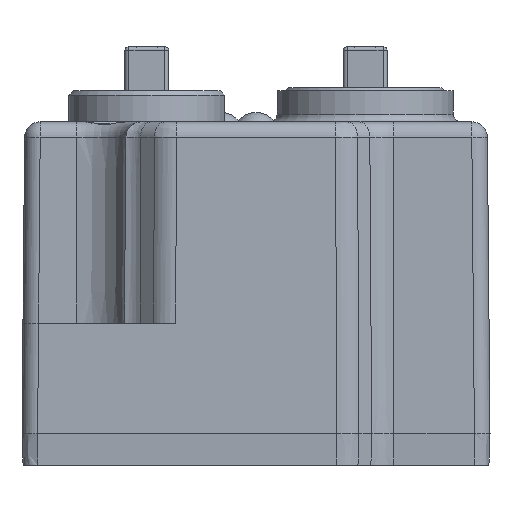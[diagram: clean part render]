
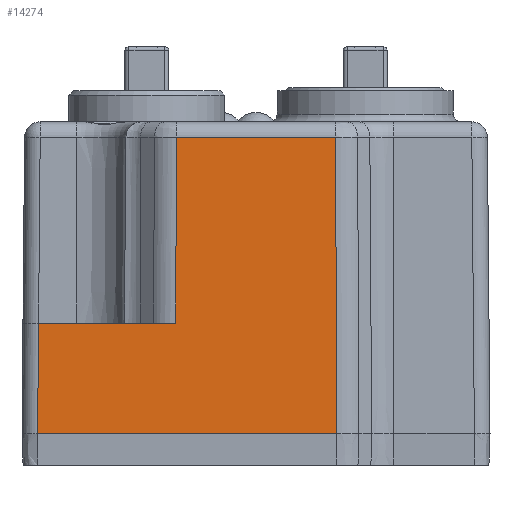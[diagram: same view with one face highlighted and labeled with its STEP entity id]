
A CAD part, front view. The second image highlights one B-rep face of the part: STEP entity #14274.
In plain terms, the highlighted planar face has unit normal (0, -1, 0.009).
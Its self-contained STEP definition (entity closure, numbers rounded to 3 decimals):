
#2693=FACE_OUTER_BOUND('',#3570,.T.);
#3570=EDGE_LOOP('',(#10073,#10074,#10075,#10076,#10077,#10078));
#4506=LINE('',#21442,#5475);
#4558=LINE('',#21707,#5527);
#4559=LINE('',#21710,#5528);
#4560=LINE('',#21711,#5529);
#4561=LINE('',#21713,#5530);
#4562=LINE('',#21714,#5531);
#5475=VECTOR('',#17025,10.);
#5527=VECTOR('',#17207,10.);
#5528=VECTOR('',#17210,10.);
#5529=VECTOR('',#17211,10.);
#5530=VECTOR('',#17212,10.);
#5531=VECTOR('',#17213,10.);
#6501=VERTEX_POINT('',#21435);
#6504=VERTEX_POINT('',#21440);
#6557=VERTEX_POINT('',#21703);
#6558=VERTEX_POINT('',#21705);
#6559=VERTEX_POINT('',#21709);
#6560=VERTEX_POINT('',#21712);
#7809=EDGE_CURVE('',#6504,#6501,#4506,.T.);
#7897=EDGE_CURVE('',#6558,#6557,#4558,.T.);
#7898=EDGE_CURVE('',#6557,#6559,#4559,.T.);
#7899=EDGE_CURVE('',#6501,#6558,#4560,.T.);
#7900=EDGE_CURVE('',#6560,#6504,#4561,.T.);
#7901=EDGE_CURVE('',#6559,#6560,#4562,.T.);
#10073=ORIENTED_EDGE('',*,*,#7898,.F.);
#10074=ORIENTED_EDGE('',*,*,#7897,.F.);
#10075=ORIENTED_EDGE('',*,*,#7899,.F.);
#10076=ORIENTED_EDGE('',*,*,#7809,.F.);
#10077=ORIENTED_EDGE('',*,*,#7900,.F.);
#10078=ORIENTED_EDGE('',*,*,#7901,.F.);
#13930=PLANE('',#15261);
#14274=ADVANCED_FACE('',(#2693),#13930,.T.);
#15261=AXIS2_PLACEMENT_3D('',#21708,#17208,#17209);
#17025=DIRECTION('',(0.009,0.009,1.));
#17207=DIRECTION('',(0.004,0.009,1.));
#17208=DIRECTION('center_axis',(0.,-1.,0.009));
#17209=DIRECTION('ref_axis',(1.,0.,0.));
#17210=DIRECTION('',(1.,0.,0.));
#17211=DIRECTION('',(1.,0.,0.));
#17212=DIRECTION('',(-1.,0.,0.));
#17213=DIRECTION('',(0.004,-0.009,-1.));
#21435=CARTESIAN_POINT('',(-13.938,-42.938,7.1));
#21440=CARTESIAN_POINT('',(-14.,-43.,0.));
#21442=CARTESIAN_POINT('',(-13.997,-42.997,0.366));
#21703=CARTESIAN_POINT('',(-5.103,-42.834,19.009));
#21705=CARTESIAN_POINT('',(-5.146,-42.938,7.1));
#21707=CARTESIAN_POINT('',(-5.136,-42.913,9.985));
#21708=CARTESIAN_POINT('Origin',(-15.,-43.,0.));
#21709=CARTESIAN_POINT('',(5.103,-42.834,19.009));
#21710=CARTESIAN_POINT('',(-7.5,-42.834,19.009));
#21711=CARTESIAN_POINT('',(-13.145,-42.938,7.1));
#21712=CARTESIAN_POINT('',(5.172,-43.,0.));
#21713=CARTESIAN_POINT('',(15.,-43.,0.));
#21714=CARTESIAN_POINT('',(5.135,-42.912,10.034));
